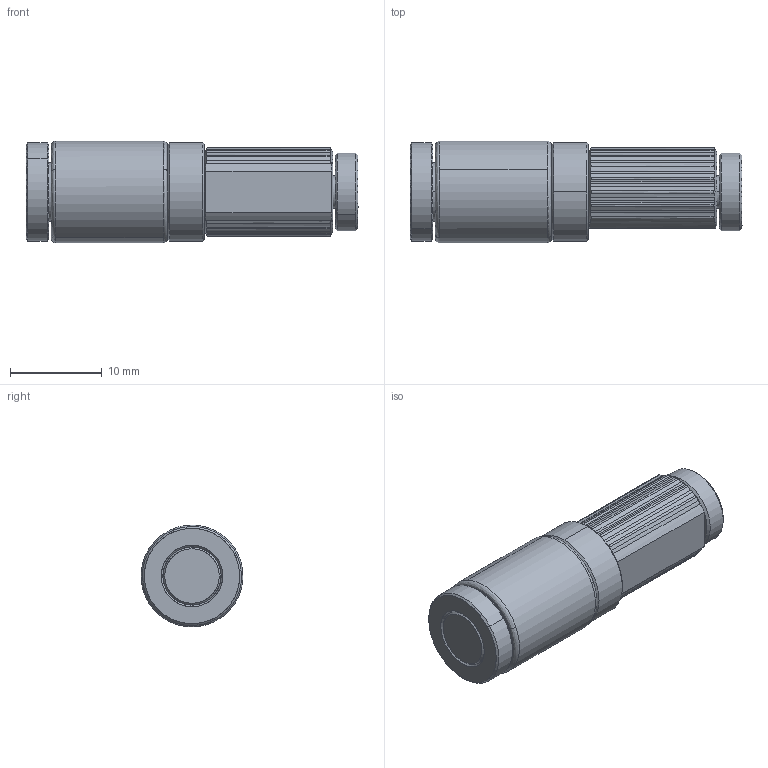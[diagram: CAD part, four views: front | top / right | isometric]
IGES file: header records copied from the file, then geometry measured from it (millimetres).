
Start section: SolidWorks IGES file using analytic representation for surfaces
Global section: file name: G:\RELEASED\84000\84090-XXX TI-320OW\REELL TI- 320-X.XX-03,04.IGS; native system: SolidWorks 2017; preprocessor: SolidWorks 2017; author: hmanderson; date: 190222.122720; units: millimetre
Bounding box: 36.2 x 11.09 x 11.11 mm (x, y, z)
Surface area: 2391.8 mm2 (no closed solid volume)
Topology: 0 solids, 0 shells, 277 faces, 2718 edges, 2716 vertices
Faces by surface type: revolution 175, bspline 102
